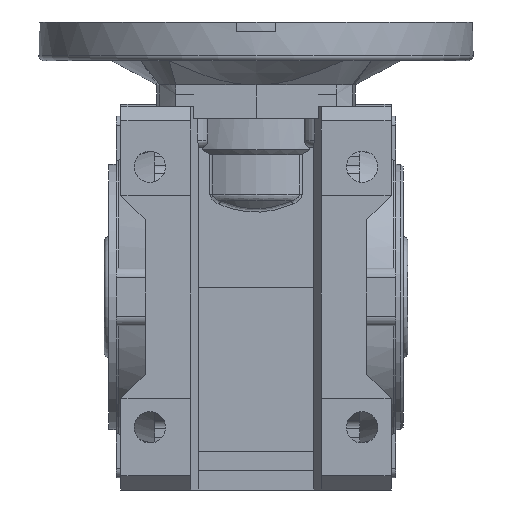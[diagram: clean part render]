
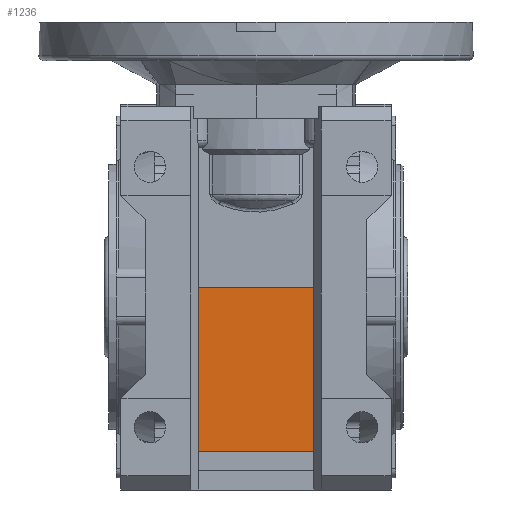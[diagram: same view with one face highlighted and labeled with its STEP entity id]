
A CAD part, left-side view. The second image highlights one B-rep face of the part: STEP entity #1236.
In plain terms, the highlighted planar face has unit normal (-1, 0, 0).
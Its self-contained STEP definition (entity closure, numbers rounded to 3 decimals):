
#1236 = ADVANCED_FACE( '', ( #2764 ), #2765, .F. );
#2764 = FACE_OUTER_BOUND( '', #4685, .T. );
#2765 = PLANE( '', #4686 );
#4685 = EDGE_LOOP( '', ( #8603, #8604, #8605, #8606 ) );
#4686 = AXIS2_PLACEMENT_3D( '', #8607, #8608, #8609 );
#8603 = ORIENTED_EDGE( '', *, *, #12220, .F. );
#8604 = ORIENTED_EDGE( '', *, *, #12035, .F. );
#8605 = ORIENTED_EDGE( '', *, *, #12221, .F. );
#8606 = ORIENTED_EDGE( '', *, *, #11082, .F. );
#8607 = CARTESIAN_POINT( '', ( -47., -43.5, -40. ) );
#8608 = DIRECTION( '', ( 1., 0., 0. ) );
#8609 = DIRECTION( '', ( 0., 0., 1. ) );
#11082 = EDGE_CURVE( '', #13381, #13383, #13384, .T. );
#12035 = EDGE_CURVE( '', #14867, #14869, #14870, .T. );
#12220 = EDGE_CURVE( '', #14869, #13381, #15110, .T. );
#12221 = EDGE_CURVE( '', #13383, #14867, #15111, .T. );
#13381 = VERTEX_POINT( '', #16618 );
#13383 = VERTEX_POINT( '', #16621 );
#13384 = LINE( '', #16622, #16623 );
#14867 = VERTEX_POINT( '', #19031 );
#14869 = VERTEX_POINT( '', #19034 );
#14870 = LINE( '', #19035, #19036 );
#15110 = LINE( '', #19418, #19419 );
#15111 = LINE( '', #19420, #19421 );
#16618 = CARTESIAN_POINT( '', ( -47., -43.5, -40. ) );
#16621 = CARTESIAN_POINT( '', ( -47., -43.5, -74. ) );
#16622 = CARTESIAN_POINT( '', ( -47., -43.5, -40. ) );
#16623 = VECTOR( '', #20717, 1000. );
#19031 = CARTESIAN_POINT( '', ( -47., -19.5, -74. ) );
#19034 = CARTESIAN_POINT( '', ( -47., -19.5, -40. ) );
#19035 = CARTESIAN_POINT( '', ( -47., -19.5, -40. ) );
#19036 = VECTOR( '', #21798, 1000. );
#19418 = CARTESIAN_POINT( '', ( -47., -43.5, -40. ) );
#19419 = VECTOR( '', #21963, 1000. );
#19420 = CARTESIAN_POINT( '', ( -47., -43.5, -74. ) );
#19421 = VECTOR( '', #21964, 1000. );
#20717 = DIRECTION( '', ( 0., 0., -1. ) );
#21798 = DIRECTION( '', ( 0., 0., 1. ) );
#21963 = DIRECTION( '', ( 0., -1., 0. ) );
#21964 = DIRECTION( '', ( 0., 1., 0. ) );
